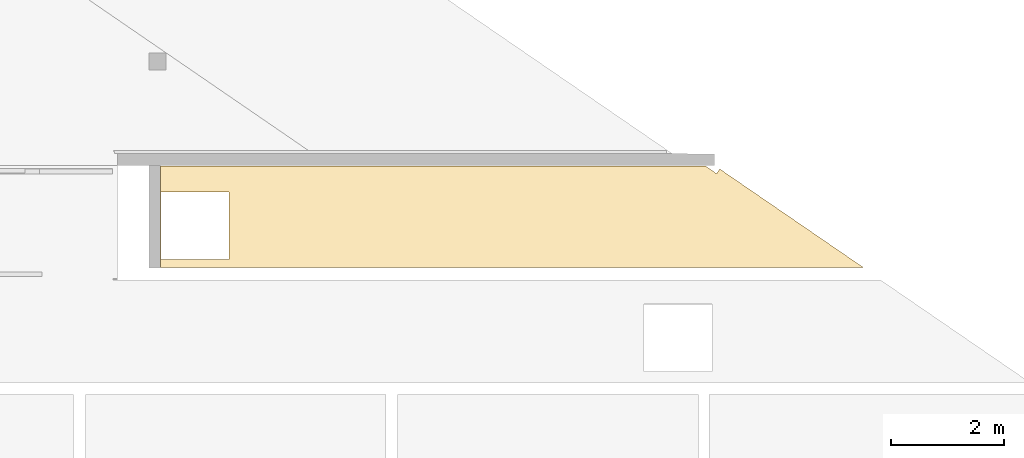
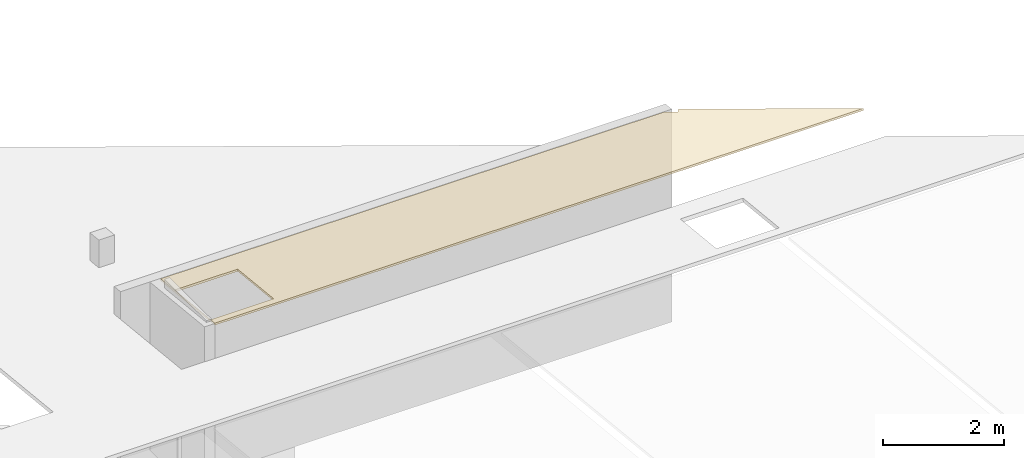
# One storey, part 40 of 43: 1 covering, 24 openings.
"""IFC2X3 building model written with IfcOpenShell, lengths in millimetres."""

from ifc_helpers import new_model, entity, si_unit, converted_unit, derived_unit, money_unit, direction, frame, origin_with_axes, place, context, subcontext, project, spatial, faceted_brep, material, type_object, element, save


model = new_model("IFC2X3")

# Units and contexts
model_context = context("Model", 3, precision=0.01, world=origin_with_axes(), true_north=direction((0.0, 1.0)))
body_context = subcontext(model_context, "Body", "Model", "MODEL_VIEW")
ifc_project = project(units=[si_unit("LENGTHUNIT", "METRE", prefix="MILLI"), si_unit("AREAUNIT", "SQUARE_METRE"), si_unit("VOLUMEUNIT", "CUBIC_METRE"), converted_unit("PLANEANGLEUNIT", "DEGREE", entity("IfcPlaneAngleMeasure", 0.0174532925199), si_unit("PLANEANGLEUNIT", "RADIAN"), dimensions=[0, 0, 0, 0, 0, 0, 0]), si_unit("SOLIDANGLEUNIT", "STERADIAN"), money_unit("EUR"), converted_unit("TIMEUNIT", "Year", entity("IfcTimeMeasure", 31556926.0), si_unit("TIMEUNIT", "SECOND"), dimensions=[0, 0, 1, 0, 0, 0, 0]), si_unit("MASSUNIT", "GRAM", prefix="KILO"), si_unit("THERMODYNAMICTEMPERATUREUNIT", "DEGREE_CELSIUS"), si_unit("LUMINOUSINTENSITYUNIT", "LUMEN"), si_unit("ENERGYUNIT", "JOULE", prefix="MEGA"), derived_unit("THERMALCONDUCTANCEUNIT", [(si_unit("POWERUNIT", "WATT"), 1), (si_unit("LENGTHUNIT", "METRE"), -1), (si_unit("THERMODYNAMICTEMPERATUREUNIT", "KELVIN"), -1)]), derived_unit("SPECIFICHEATCAPACITYUNIT", [(si_unit("ENERGYUNIT", "JOULE"), 1), (si_unit("MASSUNIT", "GRAM", prefix="KILO"), -1), (si_unit("THERMODYNAMICTEMPERATUREUNIT", "KELVIN"), -1)]), derived_unit("MASSDENSITYUNIT", [(si_unit("MASSUNIT", "GRAM", prefix="KILO"), 1), (si_unit("VOLUMEUNIT", "CUBIC_METRE"), -1)])], contexts=[model_context])

# Site, building, storey
site_placement = place(None, origin_with_axes())
site = spatial("IfcSite", under=ifc_project, at=site_placement, Name="L.Koidula tn 11b", CompositionType="ELEMENT")
building_placement = place(site_placement, origin_with_axes())
building = spatial("IfcBuilding", under=site, at=building_placement, Name="Rakvere Riigigümnaasium", CompositionType="ELEMENT")
storey_placement = place(building_placement, frame((0.0, 0.0, 6665.0), z_axis=(0.0, 0.0, 1.0), x_axis=(1.0, 0.0, 0.0)))
storey = spatial("IfcBuildingStorey", under=building, at=storey_placement, Name="3.korrus +6,66", CompositionType="ELEMENT", Elevation=6665.0)

# Covering, openings
ifc_material = material(Name="Krohv akustiline")
covering_type = type_object("IfcCoveringType", Name="Krohv akustiline 42", PredefinedType="CEILING")
covering_placement = place(storey_placement, frame((41692.3728014, 5500.45553477, 5479.46360581), z_axis=(0.0, 0.0, 1.0), x_axis=(-0.999999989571, 0.000144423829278, 0.0)))
covering = element("IfcCovering", 1, at=covering_placement, inside=storey, type_object=covering_type, material=ifc_material, Name="L-06", PredefinedType="CEILING", context=body_context, shape_type="Brep", body=[
    faceted_brep([(-44362.9528204, -11554.7440539, -1214.45253784), (-46897.6433272, -9816.79623091, -1031.78686098), (-34496.181662, -9815.00516365, -1031.59861222), (-34496.0598953, -11604.9821873, -1219.73277844), (-44110.8240014, -11606.3707876, -1219.87872621), (-44306.4028178, -11472.2692196, -1205.78408345), (-34505.9996259, -9950.44256243, -1045.83365645), (-35705.9996259, -9950.44256243, -1045.83365645), (-35705.9996259, -11143.8688369, -1171.26781237), (-34505.9996259, -11143.8688369, -1171.26781237), (-46897.6433268, -9816.79623063, -989.555512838), (-44362.9528208, -11554.744054, -1172.22118975), (-34496.1819604, -9815.00516408, -989.367264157), (-34496.0601943, -11604.982187, -1177.50143029), (-44110.8240016, -11606.370788, -1177.64737814), (-44306.4028182, -11472.2692199, -1163.55273538), (-34505.9996259, -9954.83275793, -1004.06373648), (-35705.9996259, -9954.83275793, -1004.06373648), (-35705.9996259, -11148.2590324, -1129.4978924), (-34505.9996259, -11148.2590324, -1129.4978924)], [[[0, 1, 2, 3, 4, 5], [6, 7, 8, 9]], [[10, 1, 0, 11]], [[12, 2, 1, 10]], [[13, 3, 2, 12]], [[14, 4, 3, 13]], [[15, 5, 4, 14]], [[11, 0, 5, 15]], [[16, 17, 7, 6]], [[17, 18, 8, 7]], [[18, 19, 9, 8]], [[19, 16, 6, 9]], [[10, 11, 15, 14, 13, 12], [16, 19, 18, 17]]]),
])
opening_1_placement = place(covering_placement, frame((-4555.998343, -11278.5468815, 4372.97296088), z_axis=(0.0, 0.0, 1.0), x_axis=(1.0, 0.0, 0.0)))
element("IfcOpeningElement", 2, at=opening_1_placement, cuts=covering, Name="Ava ripplaes", context=body_context, shape_type="Brep", body=[
    faceted_brep([(600.0, 1201.73628727, -5433.09394057), (-600.0, 1201.73628727, -5433.09394057), (-600.0, 1193.32174598, -5353.034928), (600.0, 1193.32174598, -5353.034928), (600.0, 8.31001282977, -5558.5280965), (-600.0, 8.31001282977, -5558.5280965), (-600.0, -0.104528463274, -5478.46908392), (600.0, -0.104528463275, -5478.46908392)], [[[0, 1, 2, 3]], [[0, 4, 5, 1]], [[1, 5, 6, 2]], [[3, 2, 6, 7]], [[4, 0, 3, 7]], [[5, 4, 7, 6]]]),
])
opening_2_placement = place(covering_placement, frame((-11516.3043858, -9160.02918398, 4595.63814337), z_axis=(0.0, 0.0, 1.0), x_axis=(1.0, 0.0, 0.0)))
element("IfcOpeningElement", 3, at=opening_2_placement, cuts=covering, Name="Ava ripplaes", context=body_context, shape_type="Brep", body=[
    faceted_brep([(600.0, 1201.73628727, -5433.09394057), (-600.0, 1201.73628727, -5433.09394057), (-600.0, 1193.32174598, -5353.034928), (600.0, 1193.32174598, -5353.034928), (600.0, 8.31001282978, -5558.5280965), (-600.0, 8.31001282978, -5558.5280965), (-600.0, -0.104528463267, -5478.46908392), (600.0, -0.104528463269, -5478.46908392)], [[[0, 1, 2, 3]], [[0, 4, 5, 1]], [[1, 5, 6, 2]], [[3, 2, 6, 7]], [[4, 0, 3, 7]], [[5, 4, 7, 6]]]),
])
opening_3_placement = place(covering_placement, frame((-23206.3022728, -9161.71749825, 4595.46069439), z_axis=(0.0, 0.0, 1.0), x_axis=(1.0, 0.0, 0.0)))
element("IfcOpeningElement", 4, at=opening_3_placement, cuts=covering, Name="Ava ripplaes", context=body_context, shape_type="Brep", body=[
    faceted_brep([(600.0, 1201.73628727, -5433.09394057), (-600.0, 1201.73628727, -5433.09394057), (-600.0, 1193.32174598, -5353.034928), (600.0, 1193.32174598, -5353.034928), (600.0, 8.31001282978, -5558.5280965), (-600.0, 8.31001282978, -5558.5280965), (-600.0, -0.104528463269, -5478.46908392), (600.0, -0.10452846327, -5478.46908392)], [[[0, 1, 2, 3]], [[0, 4, 5, 1]], [[1, 5, 6, 2]], [[3, 2, 6, 7]], [[4, 0, 3, 7]], [[5, 4, 7, 6]]]),
])
opening_4_placement = place(covering_placement, frame((-18086.1915168, -11280.4143095, 4372.77668628), z_axis=(0.0, 0.0, 1.0), x_axis=(1.0, 0.0, 0.0)))
element("IfcOpeningElement", 5, at=opening_4_placement, cuts=covering, Name="Ava ripplaes", context=body_context, shape_type="Brep", body=[
    faceted_brep([(600.0, 1201.73628727, -5433.09394057), (-600.0, 1201.73628727, -5433.09394057), (-600.0, 1193.32174598, -5353.034928), (600.0, 1193.32174598, -5353.034928), (600.0, 8.31001282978, -5558.5280965), (-600.0, 8.31001282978, -5558.5280965), (-600.0, -0.104528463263, -5478.46908392), (600.0, -0.104528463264, -5478.46908392)], [[[0, 1, 2, 3]], [[0, 4, 5, 1]], [[1, 5, 6, 2]], [[3, 2, 6, 7]], [[4, 0, 3, 7]], [[5, 4, 7, 6]]]),
])
opening_5_placement = place(covering_placement, frame((-29406.2925626, -11282.1358561, 4372.59574444), z_axis=(0.0, 0.0, 1.0), x_axis=(1.0, 0.0, 0.0)))
element("IfcOpeningElement", 6, at=opening_5_placement, cuts=covering, Name="Ava ripplaes", context=body_context, shape_type="Brep", body=[
    faceted_brep([(600.0, 1201.73628727, -5433.09394057), (-600.0, 1201.73628727, -5433.09394057), (-600.0, 1193.32174598, -5353.034928), (600.0, 1193.32174598, -5353.034928), (600.0, 8.31001282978, -5558.5280965), (-600.0, 8.31001282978, -5558.5280965), (-600.0, -0.104528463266, -5478.46908392), (600.0, -0.104528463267, -5478.46908392)], [[[0, 1, 2, 3]], [[0, 4, 5, 1]], [[1, 5, 6, 2]], [[3, 2, 6, 7]], [[4, 0, 3, 7]], [[5, 4, 7, 6]]]),
])
opening_6_placement = place(covering_placement, frame((-29405.7369011, -16322.9984736, 3842.77973394), z_axis=(0.0, 0.0, 1.0), x_axis=(1.0, 0.0, 0.0)))
element("IfcOpeningElement", 7, at=opening_6_placement, cuts=covering, Name="Ava ripplaes", context=body_context, shape_type="Brep", body=[
    faceted_brep([(600.0, 1201.73628727, -5433.09394057), (-600.0, 1201.73628727, -5433.09394057), (-600.0, 1193.32174598, -5353.034928), (600.0, 1193.32174598, -5353.034928), (600.0, 8.31001282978, -5558.5280965), (-600.0, 8.31001282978, -5558.5280965), (-600.0, -0.104528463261, -5478.46908392), (600.0, -0.104528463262, -5478.46908392)], [[[0, 1, 2, 3]], [[0, 4, 5, 1]], [[1, 5, 6, 2]], [[3, 2, 6, 7]], [[4, 0, 3, 7]], [[5, 4, 7, 6]]]),
])
opening_7_placement = place(covering_placement, frame((-9716.2340785, -23904.850891, 3045.89493373), z_axis=(0.0, 0.0, 1.0), x_axis=(1.0, 0.0, 0.0)))
element("IfcOpeningElement", 8, at=opening_7_placement, cuts=covering, Name="Ava ripplaes", context=body_context, shape_type="Brep", body=[
    faceted_brep([(600.0, 1201.73628727, -5433.09394057), (-600.0, 1201.73628727, -5433.09394057), (-600.0, 1193.32174598, -5353.034928), (600.0, 1193.32174598, -5353.034928), (600.0, 8.31001282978, -5558.5280965), (-600.0, 8.31001282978, -5558.5280965), (-600.0, -0.104528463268, -5478.46908392), (600.0, -0.104528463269, -5478.46908392)], [[[0, 1, 2, 3]], [[0, 4, 5, 1]], [[1, 5, 6, 2]], [[3, 2, 6, 7]], [[4, 0, 3, 7]], [[5, 4, 7, 6]]]),
])
opening_8_placement = place(covering_placement, frame((-9715.54464158, -29871.9832396, 2418.72405149), z_axis=(0.0, 0.0, 1.0), x_axis=(1.0, 0.0, 0.0)))
element("IfcOpeningElement", 9, at=opening_8_placement, cuts=covering, Name="Ava ripplaes", context=body_context, shape_type="Brep", body=[
    faceted_brep([(600.0, 1201.73628727, -5433.09394057), (-600.0, 1201.73628727, -5433.09394057), (-600.0, 1193.32174598, -5353.034928), (600.0, 1193.32174598, -5353.034928), (600.0, 8.31001282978, -5558.5280965), (-600.0, 8.31001282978, -5558.5280965), (-600.0, -0.104528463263, -5478.46908392), (600.0, -0.104528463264, -5478.46908392)], [[[0, 1, 2, 3]], [[0, 4, 5, 1]], [[1, 5, 6, 2]], [[3, 2, 6, 7]], [[4, 0, 3, 7]], [[5, 4, 7, 6]]]),
])
opening_9_placement = place(covering_placement, frame((3416.81663542, -31969.3532486, 2198.28158063), z_axis=(0.0, 0.0, 1.0), x_axis=(1.0, 0.0, 0.0)))
element("IfcOpeningElement", 10, at=opening_9_placement, cuts=covering, Name="Ava ripplaes", context=body_context, shape_type="Brep", body=[
    faceted_brep([(600.0, 1201.73628727, -5433.09394057), (-600.0, 1201.73628727, -5433.09394057), (-600.0, 1193.32174598, -5353.034928), (600.0, 1193.32174598, -5353.034928), (600.0, 8.31001282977, -5558.5280965), (-600.0, 8.31001282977, -5558.5280965), (-600.0, -0.104528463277, -5478.46908392), (600.0, -0.104528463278, -5478.46908392)], [[[0, 1, 2, 3]], [[0, 4, 5, 1]], [[1, 5, 6, 2]], [[3, 2, 6, 7]], [[4, 0, 3, 7]], [[5, 4, 7, 6]]]),
])
opening_10_placement = place(covering_placement, frame((305.258902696, -28389.6185082, 2574.52686297), z_axis=(0.0, 0.0, 1.0), x_axis=(1.0, 0.0, 0.0)))
element("IfcOpeningElement", 11, at=opening_10_placement, cuts=covering, Name="Ava ripplaes", context=body_context, shape_type="Brep", body=[
    faceted_brep([(600.0, 1201.73628727, -5433.09394057), (-600.0, 1201.73628727, -5433.09394057), (-600.0, 1193.32174598, -5353.034928), (600.0, 1193.32174598, -5353.034928), (600.0, 8.31001282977, -5558.5280965), (-600.0, 8.31001282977, -5558.5280965), (-600.0, -0.104528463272, -5478.46908392), (600.0, -0.104528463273, -5478.46908392)], [[[0, 1, 2, 3]], [[0, 4, 5, 1]], [[1, 5, 6, 2]], [[3, 2, 6, 7]], [[4, 0, 3, 7]], [[5, 4, 7, 6]]]),
])
opening_11_placement = place(covering_placement, frame((3415.95483931, -24808.7946504, 2950.88661617), z_axis=(0.0, 0.0, 1.0), x_axis=(1.0, 0.0, 0.0)))
element("IfcOpeningElement", 12, at=opening_11_placement, cuts=covering, Name="Ava ripplaes", context=body_context, shape_type="Brep", body=[
    faceted_brep([(600.0, 1201.73628727, -5433.09394057), (-600.0, 1201.73628727, -5433.09394057), (-600.0, 1193.32174598, -5353.034928), (600.0, 1193.32174598, -5353.034928), (600.0, 8.31001282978, -5558.5280965), (-600.0, 8.31001282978, -5558.5280965), (-600.0, -0.104528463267, -5478.46908392), (600.0, -0.104528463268, -5478.46908392)], [[[0, 1, 2, 3]], [[0, 4, 5, 1]], [[1, 5, 6, 2]], [[3, 2, 6, 7]], [[4, 0, 3, 7]], [[5, 4, 7, 6]]]),
])
opening_12_placement = place(covering_placement, frame((3414.40360632, -14067.9564676, 4079.79419948), z_axis=(0.0, 0.0, 1.0), x_axis=(1.0, 0.0, 0.0)))
element("IfcOpeningElement", 13, at=opening_12_placement, cuts=covering, Name="Ava ripplaes", context=body_context, shape_type="Brep", body=[
    faceted_brep([(600.0, 1201.73628727, -5433.09394057), (-600.0, 1201.73628727, -5433.09394057), (-600.0, 1193.32174598, -5353.034928), (600.0, 1193.32174598, -5353.034928), (600.0, 8.31001282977, -5558.5280965), (-600.0, 8.31001282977, -5558.5280965), (-600.0, -0.104528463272, -5478.46908392), (600.0, -0.104528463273, -5478.46908392)], [[[0, 1, 2, 3]], [[0, 4, 5, 1]], [[1, 5, 6, 2]], [[3, 2, 6, 7]], [[4, 0, 3, 7]], [[5, 4, 7, 6]]]),
])
opening_13_placement = place(covering_placement, frame((-1060.42443632, -15261.8557052, 3954.31033313), z_axis=(0.0, 0.0, 1.0), x_axis=(1.0, 0.0, 0.0)))
element("IfcOpeningElement", 14, at=opening_13_placement, cuts=covering, Name="Ava ripplaes", context=body_context, shape_type="Brep", body=[
    faceted_brep([(600.0, 1201.73628727, -5433.09394057), (-600.0, 1201.73628727, -5433.09394057), (-600.0, 1193.32174598, -5353.034928), (600.0, 1193.32174598, -5353.034928), (600.0, 8.31001282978, -5558.5280965), (-600.0, 8.31001282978, -5558.5280965), (-600.0, -0.104528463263, -5478.46908392), (600.0, -0.104528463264, -5478.46908392)], [[[0, 1, 2, 3]], [[0, 4, 5, 1]], [[1, 5, 6, 2]], [[3, 2, 6, 7]], [[4, 0, 3, 7]], [[5, 4, 7, 6]]]),
])
opening_14_placement = place(covering_placement, frame((3414.92068395, -17648.2356466, 3703.49169433), z_axis=(0.0, 0.0, 1.0), x_axis=(1.0, 0.0, 0.0)))
element("IfcOpeningElement", 15, at=opening_14_placement, cuts=covering, Name="Ava ripplaes", context=body_context, shape_type="Brep", body=[
    faceted_brep([(600.0, 1201.73628727, -5433.09394057), (-600.0, 1201.73628727, -5433.09394057), (-600.0, 1193.32174598, -5353.034928), (600.0, 1193.32174598, -5353.034928), (600.0, 8.31001282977, -5558.5280965), (-600.0, 8.31001282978, -5558.5280965), (-600.0, -0.10452846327, -5478.46908392), (600.0, -0.104528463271, -5478.46908392)], [[[0, 1, 2, 3]], [[0, 4, 5, 1]], [[1, 5, 6, 2]], [[3, 2, 6, 7]], [[4, 0, 3, 7]], [[5, 4, 7, 6]]]),
])
opening_15_placement = place(covering_placement, frame((306.293058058, -36743.6037864, 1696.48762888), z_axis=(0.0, 0.0, 1.0), x_axis=(1.0, 0.0, 0.0)))
element("IfcOpeningElement", 16, at=opening_15_placement, cuts=covering, Name="Ava ripplaes", context=body_context, shape_type="Brep", body=[
    faceted_brep([(600.0, 1201.73628727, -5433.09394057), (-600.0, 1201.73628727, -5433.09394057), (-600.0, 1193.32174598, -5353.034928), (600.0, 1193.32174598, -5353.034928), (600.0, 8.31001282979, -5558.5280965), (-600.0, 8.31001282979, -5558.5280965), (-600.0, -0.104528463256, -5478.46908392), (600.0, -0.104528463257, -5478.46908392)], [[[0, 1, 2, 3]], [[0, 4, 5, 1]], [[1, 5, 6, 2]], [[3, 2, 6, 7]], [[4, 0, 3, 7]], [[5, 4, 7, 6]]]),
])
opening_16_placement = place(covering_placement, frame((-26304.9309839, -18710.1062928, 3591.88459212), z_axis=(0.0, 0.0, 1.0), x_axis=(1.0, 0.0, 0.0)))
element("IfcOpeningElement", 17, at=opening_16_placement, cuts=covering, Name="Ava ripplaes", context=body_context, shape_type="Brep", body=[
    faceted_brep([(600.0, 1201.73628727, -5433.09394057), (-600.0, 1201.73628727, -5433.09394057), (-600.0, 1193.32174598, -5353.034928), (600.0, 1193.32174598, -5353.034928), (600.0, 8.31001282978, -5558.5280965), (-600.0, 8.31001282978, -5558.5280965), (-600.0, -0.104528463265, -5478.46908392), (600.0, -0.104528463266, -5478.46908392)], [[[0, 1, 2, 3]], [[0, 4, 5, 1]], [[1, 5, 6, 2]], [[3, 2, 6, 7]], [[4, 0, 3, 7]], [[5, 4, 7, 6]]]),
])
opening_17_placement = place(covering_placement, frame((-32956.2401126, -13936.6582716, 4093.59419596), z_axis=(0.0, 0.0, 1.0), x_axis=(1.0, 0.0, 0.0)))
element("IfcOpeningElement", 18, at=opening_17_placement, cuts=covering, Name="Ava ripplaes", context=body_context, shape_type="Brep", body=[
    faceted_brep([(600.0, 1201.73628727, -5433.09394057), (-600.0, 1201.73628727, -5433.09394057), (-600.0, 1193.32174598, -5353.034928), (600.0, 1193.32174598, -5353.034928), (600.0, 8.31001282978, -5558.5280965), (-600.0, 8.31001282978, -5558.5280965), (-600.0, -0.104528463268, -5478.46908392), (600.0, -0.104528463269, -5478.46908392)], [[[0, 1, 2, 3]], [[0, 4, 5, 1]], [[1, 5, 6, 2]], [[3, 2, 6, 7]], [[4, 0, 3, 7]], [[5, 4, 7, 6]]]),
])
opening_18_placement = place(covering_placement, frame((-26305.6204208, -13936.4004338, 4093.62129581), z_axis=(0.0, 0.0, 1.0), x_axis=(1.0, 0.0, 0.0)))
element("IfcOpeningElement", 19, at=opening_18_placement, cuts=covering, Name="Ava ripplaes", context=body_context, shape_type="Brep", body=[
    faceted_brep([(600.0, 1201.73628727, -5433.09394057), (-600.0, 1201.73628727, -5433.09394057), (-600.0, 1193.32174598, -5353.034928), (600.0, 1193.32174598, -5353.034928), (600.0, 8.31001282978, -5558.5280965), (-600.0, 8.31001282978, -5558.5280965), (-600.0, -0.104528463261, -5478.46908392), (600.0, -0.104528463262, -5478.46908392)], [[[0, 1, 2, 3]], [[0, 4, 5, 1]], [[1, 5, 6, 2]], [[3, 2, 6, 7]], [[4, 0, 3, 7]], [[5, 4, 7, 6]]]),
])
opening_19_placement = place(covering_placement, frame((-13944.6863496, -20673.7694846, 3385.49527403), z_axis=(0.0, 0.0, 1.0), x_axis=(1.0, 0.0, 0.0)))
element("IfcOpeningElement", 20, at=opening_19_placement, cuts=covering, Name="Ava ripplaes", context=body_context, shape_type="Brep", body=[
    faceted_brep([(-600.0, 1193.32174598, -5353.034928), (600.0, 1193.32174598, -5353.034928), (600.0, 1201.73628727, -5433.09394057), (-600.0, 1201.73628727, -5433.09394057), (-600.0, -0.104528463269, -5478.46908392), (600.0, -0.10452846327, -5478.46908392), (600.0, 8.31001282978, -5558.5280965), (-600.0, 8.31001282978, -5558.5280965)], [[[0, 1, 2, 3]], [[0, 4, 5, 1]], [[1, 5, 6, 2]], [[3, 2, 6, 7]], [[4, 0, 3, 7]], [[5, 4, 7, 6]]]),
])
opening_20_placement = place(covering_placement, frame((-1059.56264018, -21228.9882442, 3327.13943089), z_axis=(0.0, 0.0, 1.0), x_axis=(1.0, 0.0, 0.0)))
element("IfcOpeningElement", 21, at=opening_20_placement, cuts=covering, Name="Ava ripplaes", context=body_context, shape_type="Brep", body=[
    faceted_brep([(600.0, 1201.73628727, -5433.09394057), (-600.0, 1201.73628727, -5433.09394057), (-600.0, 1193.32174598, -5353.034928), (600.0, 1193.32174598, -5353.034928), (600.0, 8.31001282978, -5558.5280965), (-600.0, 8.31001282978, -5558.5280965), (-600.0, -0.104528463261, -5478.46908392), (600.0, -0.104528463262, -5478.46908392)], [[[0, 1, 2, 3]], [[0, 4, 5, 1]], [[1, 5, 6, 2]], [[3, 2, 6, 7]], [[4, 0, 3, 7]], [[5, 4, 7, 6]]]),
])
opening_21_placement = place(covering_placement, frame((-3012.35451113, -31970.3769044, 2198.17399007), z_axis=(0.0, 0.0, 1.0), x_axis=(1.0, 0.0, 0.0)))
element("IfcOpeningElement", 22, at=opening_21_placement, cuts=covering, Name="Ava ripplaes", context=body_context, shape_type="Brep", body=[
    faceted_brep([(-600.0, 1193.32174598, -5353.034928), (600.0, 1193.32174598, -5353.034928), (600.0, 1201.73628727, -5433.09394057), (-600.0, 1201.73628727, -5433.09394057), (-600.0, -0.10452846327, -5478.46908392), (600.0, -0.104528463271, -5478.46908392), (600.0, 8.31001282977, -5558.5280965), (-600.0, 8.31001282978, -5558.5280965)], [[[0, 1, 2, 3]], [[0, 4, 5, 1]], [[1, 5, 6, 2]], [[3, 2, 6, 7]], [[4, 0, 3, 7]], [[5, 4, 7, 6]]]),
])
opening_22_placement = place(covering_placement, frame((-3013.56102562, -24809.818356, 2950.77902037), z_axis=(0.0, 0.0, 1.0), x_axis=(1.0, 0.0, 0.0)))
element("IfcOpeningElement", 23, at=opening_22_placement, cuts=covering, Name="Ava ripplaes", context=body_context, shape_type="Brep", body=[
    faceted_brep([(-600.0, 1193.32174598, -5353.034928), (600.0, 1193.32174598, -5353.034928), (600.0, 1201.73628727, -5433.09394057), (-600.0, 1201.73628727, -5433.09394057), (-600.0, -0.10452846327, -5478.46908392), (600.0, -0.104528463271, -5478.46908392), (600.0, 8.31001282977, -5558.5280965), (-600.0, 8.31001282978, -5558.5280965)], [[[0, 1, 2, 3]], [[0, 4, 5, 1]], [[1, 5, 6, 2]], [[3, 2, 6, 7]], [[4, 0, 3, 7]], [[5, 4, 7, 6]]]),
])
opening_23_placement = place(covering_placement, frame((-13851.7860327, -27035.9084416, 2716.80752429), z_axis=(0.0, 0.0, 1.0), x_axis=(1.0, 0.0, 0.0)))
element("IfcOpeningElement", 24, at=opening_23_placement, cuts=covering, Name="Ava ripplaes", context=body_context, shape_type="Brep", body=[
    faceted_brep([(600.0, 1201.73628727, -5433.09394057), (-600.0, 1201.73628727, -5433.09394057), (-600.0, 1193.32174598, -5353.034928), (600.0, 1193.32174598, -5353.034928), (600.0, 8.31001282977, -5558.5280965), (-600.0, 8.31001282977, -5558.5280965), (-600.0, -0.104528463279, -5478.46908392), (600.0, -0.10452846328, -5478.46908392)], [[[0, 1, 2, 3]], [[0, 4, 5, 1]], [[1, 5, 6, 2]], [[3, 2, 6, 7]], [[4, 0, 3, 7]], [[5, 4, 7, 6]]]),
])
opening_24_placement = place(covering_placement, frame((-35105.9996259, -11148.2590324, 4349.96571342), z_axis=(0.0, 0.0, 1.0), x_axis=(1.0, 0.0, 0.0)))
element("IfcOpeningElement", 25, at=opening_24_placement, cuts=covering, Name="Ava ripplaes", context=body_context, shape_type="Brep", body=[
    faceted_brep([(600.0, 1197.92099836, -5396.79389139), (-600.0, 1197.92099836, -5396.79389139), (-600.0, 1193.32174598, -5353.034928), (600.0, 1193.32174598, -5353.034928), (600.0, 4.49472392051, -5522.22804732), (-600.0, 4.49472392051, -5522.22804732), (-600.0, -0.104528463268, -5478.46908392), (600.0, -0.104528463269, -5478.46908392)], [[[0, 1, 2, 3]], [[0, 4, 5, 1]], [[1, 5, 6, 2]], [[3, 2, 6, 7]], [[4, 0, 3, 7]], [[5, 4, 7, 6]]]),
])

save(model, "model.ifc")
